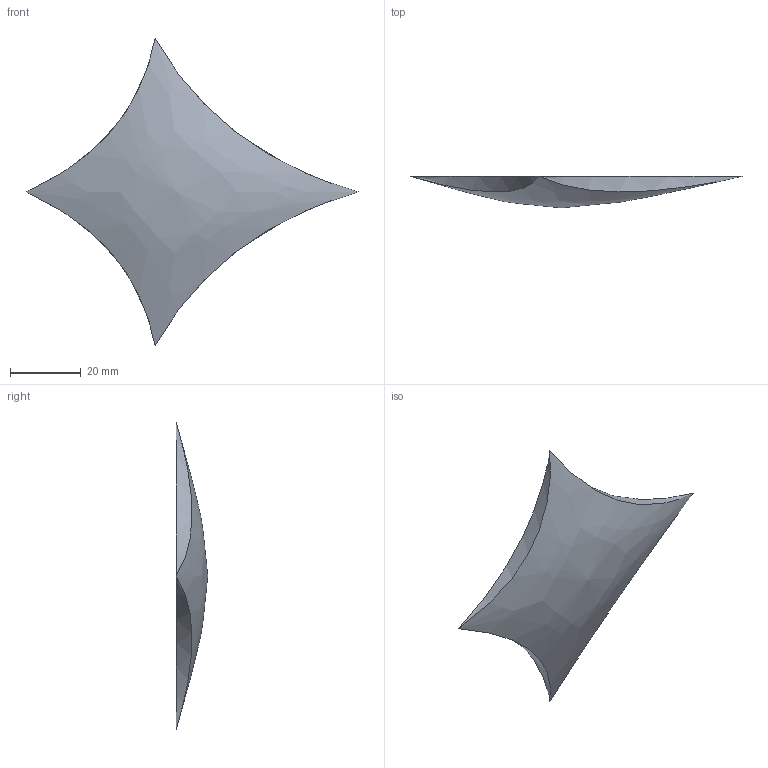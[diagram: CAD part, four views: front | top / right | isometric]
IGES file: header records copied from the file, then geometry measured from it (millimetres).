
Global section: file name: D:\3_IDENTIDAD CORPORATIVA\19 - ARCHIVOS DWG - IGS - DXF\_KITE\KT06.igs; native system: Rhinoceros ( Apr  1 2010 ); preprocessor: Trout Lake IGES 012 Apr  1 2010; date: 120507.072121; units: millimetre
Bounding box: 94.12 x 8.92 x 87.07 mm (x, y, z)
Surface area: 3696.9 mm2 (no closed solid volume)
Topology: 0 solids, 0 shells, 5 faces, 24 edges, 20 vertices
Faces by surface type: bspline 5
